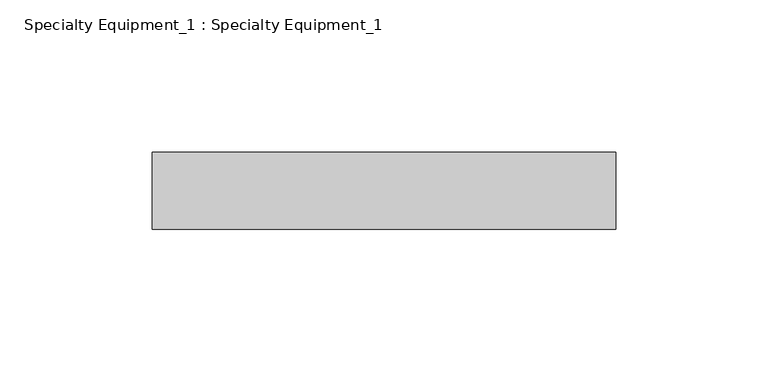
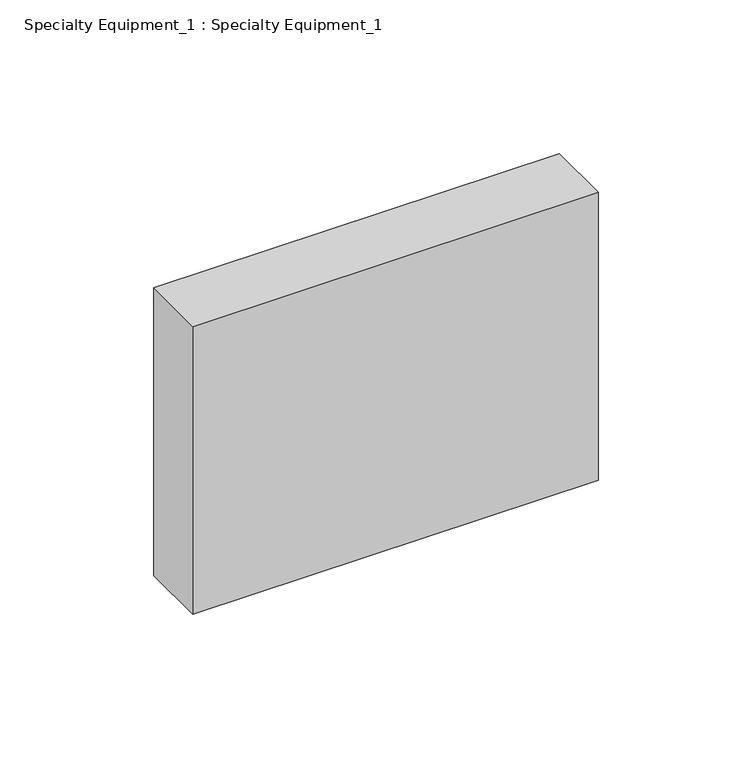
"""IFC4 building model written with IfcOpenShell, lengths in millimetres: proxy geometry, Specialty Equipment_1 : Specialty Equipment_1."""

from ifc_helpers import new_model, si_unit, origin, origin_with_axes, place, context, project, spatial, polyline, outline, extrude, source, transform, mapped, element, save


def specialty_equipment_1_specialty_equipment_1_1134e4f5(model_context):
    return source(origin(), model_context, "Body", "SweptSolid", [
        extrude(outline(polyline([(76.2, 0.0), (76.2, -25.4), (-76.2, -25.4), (-76.2, 0.0), (76.2, 0.0)])), origin_with_axes(), (0.0, 0.0, 1.0), 114.3),
    ])


if __name__ == "__main__":
    model = new_model("IFC4")
    model_context = context("Model", 3, world=origin())
    ifc_project = project(units=[si_unit("LENGTHUNIT", "METRE", prefix="MILLI")], contexts=[model_context])
    site = spatial("IfcSite", under=ifc_project)
    building = spatial("IfcBuilding", under=site)
    placement = place(None, origin())
    specialty_equipment_1_specialty_equipment_1_shape = specialty_equipment_1_specialty_equipment_1_1134e4f5(model_context)
    element("IfcBuildingElementProxy", 1, Name="Specialty Equipment_1 : Specialty Equipment_1", ObjectType="Specialty Equipment_1 : Specialty Equipment_1", at=placement, inside=building, context=model_context, shape_type="MappedRepresentation", body=[
        mapped(specialty_equipment_1_specialty_equipment_1_shape, transform((0.0, 0.0, 0.0), x_axis=(1.0, 0.0, 0.0), y_axis=(0.0, 1.0, 0.0), z_axis=(0.0, 0.0, 1.0))),
    ])
    save(model, "model.ifc")
